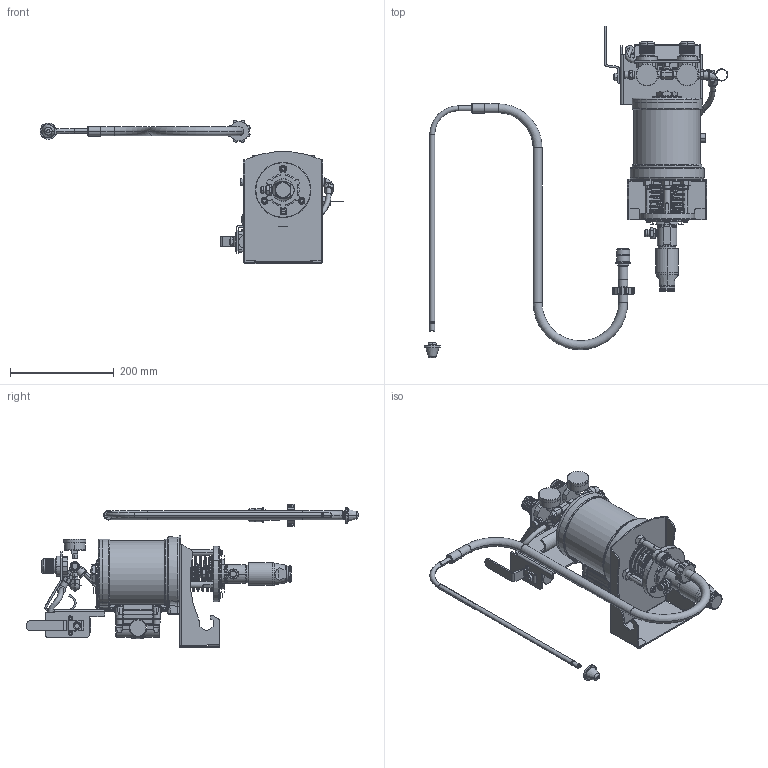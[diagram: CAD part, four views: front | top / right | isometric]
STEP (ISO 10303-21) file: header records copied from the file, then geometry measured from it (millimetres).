
FILE_DESCRIPTION((''),'2;1');
FILE_NAME('24F152-EN-N_PRT','2022-02-14T11:44:06',('qtmwp1'),(''),'CREO PARAMETRIC BY PTC INC, 2021072','CREO PARAMETRIC BY PTC INC, 2021072','');
FILE_SCHEMA(('CONFIG_CONTROL_DESIGN'));
Products named in the file (1): 24F152-EN-N_PRT
Bounding box: 586.38 x 640.58 x 276.78 mm (x, y, z)
Surface area: 601116.6 mm2 (no closed solid volume)
Topology: 0 solids, 176 shells, 1543 faces, 4968 edges, 3384 vertices
Faces by surface type: plane 565, cylinder 432, cone 320, torus 120, bspline 91, sphere 15
Entity records: 67819 total; most frequent: CARTESIAN_POINT 27192, DIRECTION 8351, ORIENTED_EDGE 7631, EDGE_CURVE 4948, VERTEX_POINT 3384, AXIS2_PLACEMENT_3D 3213, VECTOR 1925, LINE 1925
